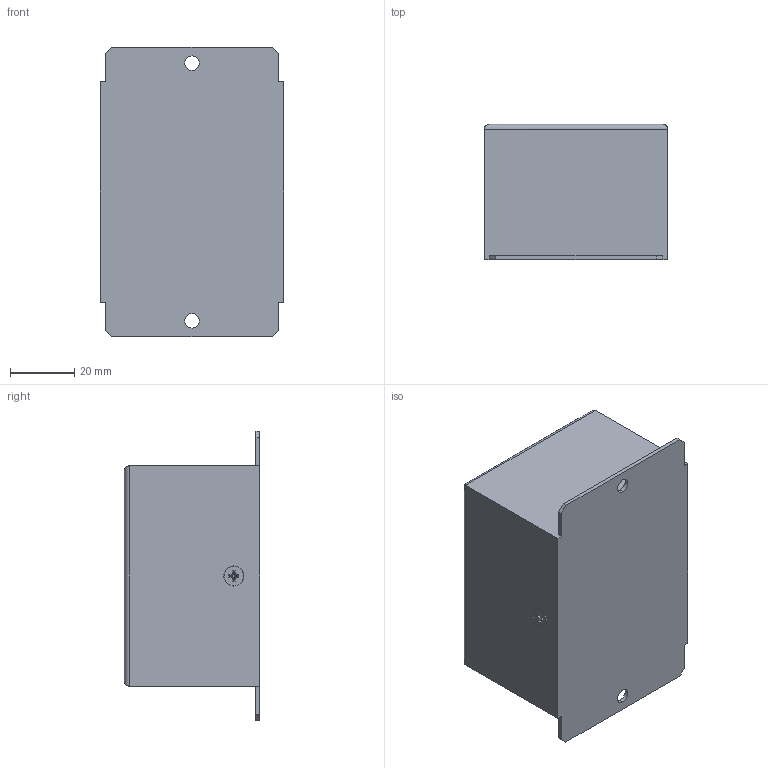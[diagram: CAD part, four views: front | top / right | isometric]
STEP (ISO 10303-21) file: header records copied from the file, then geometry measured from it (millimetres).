
FILE_DESCRIPTION (( 'STEP AP214' ), '1' );
FILE_NAME ('PJR-3_Assem1.STEP', '2024-06-18T02:56:12', ( '' ), ( '' ), 'SwSTEP 2.0', 'SolidWorks 2023', '' );
FILE_SCHEMA (( 'AUTOMOTIVE_DESIGN' ));
Length unit declared in the file: millimetre
Products named in the file (3): PJR-3_Assem1; Flat Head SCREW M3 X6 MM; PJR-3_Part1
Assembly tree (3 placements, depth 2):
  PJR-3_Assem1
    PJR-3_Part1
    Flat Head SCREW M3 X6 MM  x2
Bounding box: 57 x 42 x 90 mm (x, y, z)
Volume: 147122.1 mm3; surface area: 27246.8 mm2
Topology: 3 solids, 3 shells, 217 faces, 502 edges, 328 vertices
Faces by surface type: plane 84, cylinder 79, torus 32, cone 12, bspline 10
Entity records: 5771 total; most frequent: CARTESIAN_POINT 1069, DIRECTION 1059, ORIENTED_EDGE 886, EDGE_CURVE 443, AXIS2_PLACEMENT_3D 422, VERTEX_POINT 286, EDGE_LOOP 237, CIRCLE 224
